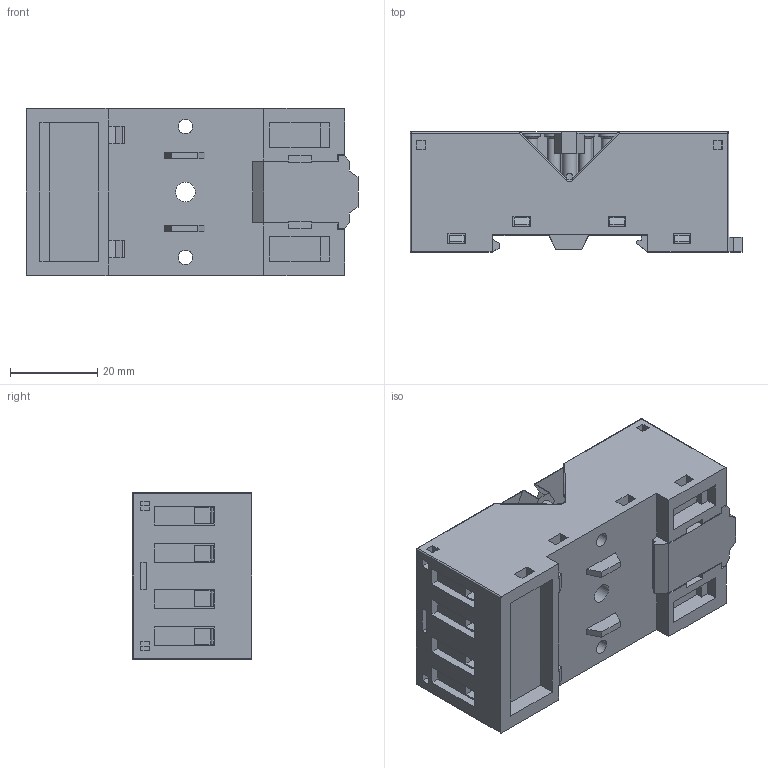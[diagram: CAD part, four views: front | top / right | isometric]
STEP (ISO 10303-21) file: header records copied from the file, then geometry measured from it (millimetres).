
FILE_DESCRIPTION(/* description */ ('STEP AP214'),/* implementation_level */ '2;1');
FILE_NAME(/* name */ 'I:\TI\Inventor\Panelen\Algemeen\Relais\Relpol relays 3D files\VG-8T\VG-8T.STP',/* time_stamp */ '2021-06-03T14:33:08+02:00',/* author */ ('nbinnendijk'),/* organization */ ('Mors Smitt'),/* preprocessor_version */ 'ST-DEVELOPER v18',/* originating_system */ 'Autodesk Inventor 2020',/* authorisation */ '');
FILE_SCHEMA (('AUTOMOTIVE_DESIGN { 1 0 10303 214 3 1 1 }'));
Length unit declared in the file: millimetre
Products named in the file (3): VG-8T; VG-8T-1; VG-8T-2
Assembly tree (10 placements, depth 2):
  VG-8T
    VG-8T-1
    VG-8T-2  x9
Bounding box: 76.1 x 27.5 x 38.3 mm (x, y, z)
Volume: 61921.4 mm3; surface area: 21668.9 mm2
Topology: 10 solids, 10 shells, 1358 faces, 3441 edges, 2086 vertices
Faces by surface type: plane 595, cylinder 358, bspline 180, torus 101, sphere 80, cone 44
Full cylindrical faces by diameter (mm): 2.2 x9, 2.5 x9, 3 x17, 3.3 x2, 3.8 x1, 4.3 x8, 4.5 x1, 5.25 x9
Entity records: 20494 total; most frequent: CARTESIAN_POINT 4333, ORIENTED_EDGE 3346, DIRECTION 3280, EDGE_CURVE 1673, LINE 1236, VECTOR 1236, VERTEX_POINT 1086, AXIS2_PLACEMENT_3D 1022
